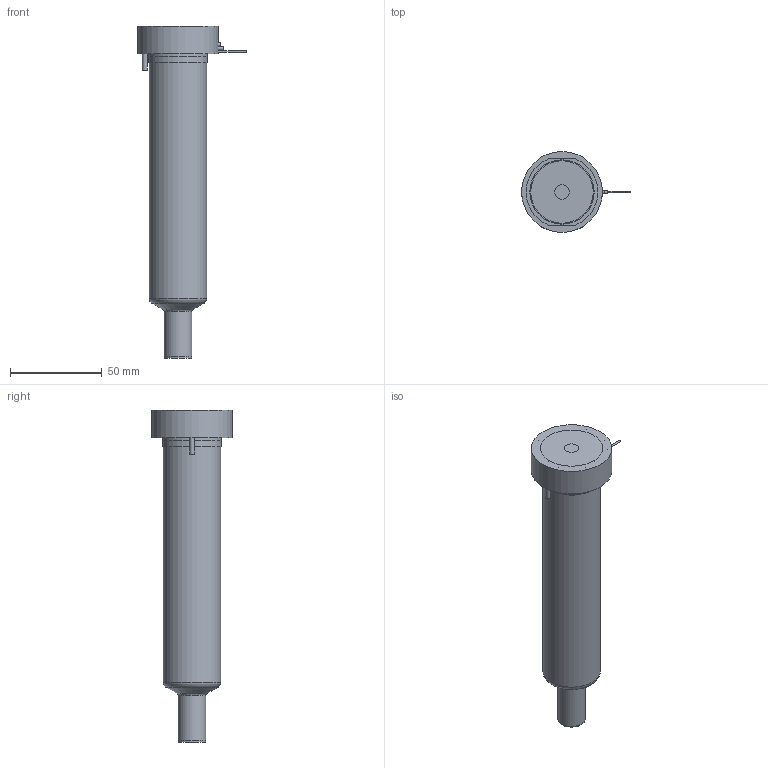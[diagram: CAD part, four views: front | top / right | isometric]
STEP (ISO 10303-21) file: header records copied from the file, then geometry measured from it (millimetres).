
FILE_DESCRIPTION(/* description */ (''),/* implementation_level */ '2;1');
FILE_NAME(/* name */ 'MXYCN19145P7F_250C_a',/* time_stamp */ '2016-02-26T15:24:33+13:00',/* author */ (''),/* organization */ (''),/* preprocessor_version */ 'ST-DEVELOPER v9',/* originating_system */ 'UGS - NX 4.0',/* authorisation */ '');
FILE_SCHEMA (('CONFIG_CONTROL_DESIGN'));
Length unit declared in the file: millimetre
Products named in the file (1): matt70754h1n
Bounding box: 59.25 x 44 x 180.77 mm (x, y, z)
Volume: 224206.3 mm3; surface area: 37635.2 mm2
Topology: 2 solids, 2 shells, 68 faces, 144 edges, 94 vertices
Faces by surface type: plane 29, cylinder 25, torus 7, cone 5, bspline 1, sphere 1
Full cylindrical faces by diameter (mm): 1 x2, 2 x2, 2.2 x1, 2.5 x1, 7 x1, 8 x1, 14.61 x1, 14.995 x2, 18.3 x1, 25.4 x1, 31.5 x1, 32 x2, 44 x1
Entity records: 2005 total; most frequent: CARTESIAN_POINT 597, DIRECTION 290, ORIENTED_EDGE 212, AXIS2_PLACEMENT_3D 131, EDGE_LOOP 112, EDGE_CURVE 106, VERTEX_POINT 84, ADVANCED_FACE 68
